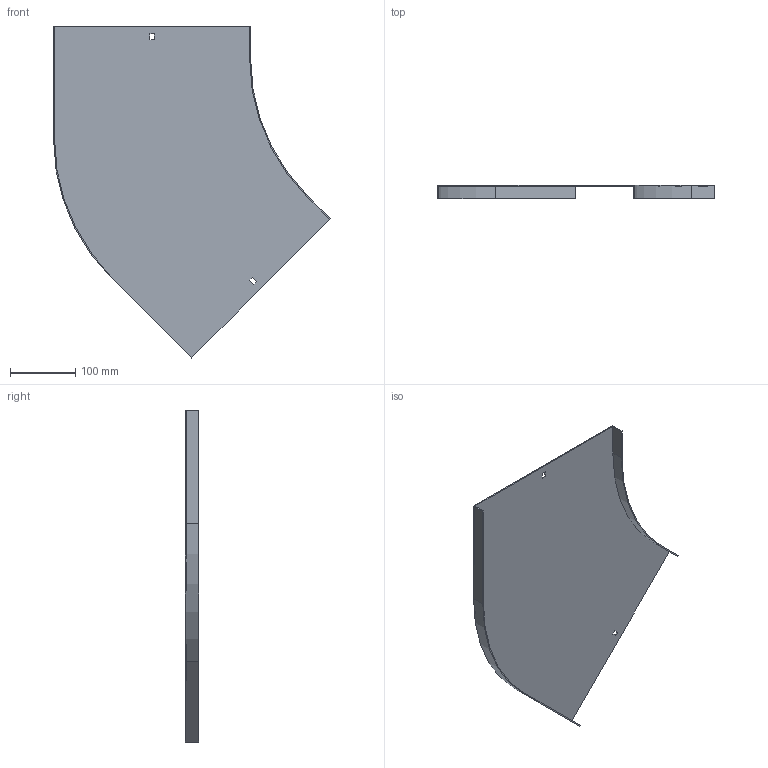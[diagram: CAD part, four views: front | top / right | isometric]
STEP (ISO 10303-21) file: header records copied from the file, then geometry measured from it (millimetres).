
FILE_DESCRIPTION (( 'STEP AP214' ), '1' );
FILE_NAME ('B2_11N3R300.step', '2025-02-21T10:51:03', ( '' ), ( '' ), 'SwSTEP 2.0', 'SolidWorks 2023', '' );
FILE_SCHEMA (( 'AUTOMOTIVE_DESIGN' ));
Length unit declared in the file: millimetre
Products named in the file (1): B2_11N3R300
Bounding box: 425.78 x 20 x 510.68 mm (x, y, z)
Volume: 240174 mm3; surface area: 322724.7 mm2
Topology: 1 solids, 1 shells, 26 faces, 72 edges, 48 vertices
Faces by surface type: plane 22, cylinder 4
Entity records: 855 total; most frequent: CARTESIAN_POINT 147, ORIENTED_EDGE 144, DIRECTION 134, EDGE_CURVE 72, LINE 64, VECTOR 64, VERTEX_POINT 48, AXIS2_PLACEMENT_3D 35
